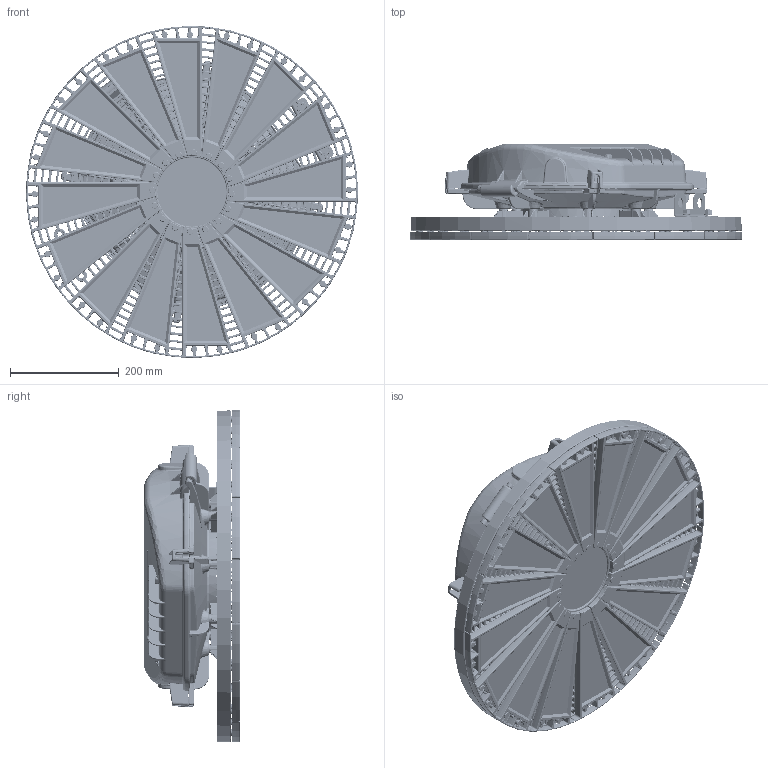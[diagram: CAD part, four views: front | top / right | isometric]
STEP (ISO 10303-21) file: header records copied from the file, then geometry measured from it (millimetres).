
FILE_DESCRIPTION((''),'2;1');
FILE_NAME('H7XXXXXXXNXXXX','2020-08-19T11:58:06',('Wangc'),(''),'CREO PARAMETRIC BY PTC INC, 2019080','CREO PARAMETRIC BY PTC INC, 2019080','');
FILE_SCHEMA(('CONFIG_CONTROL_DESIGN'));
Length unit declared in the file: inch
Products named in the file (1): H7XXXXXXXNXXXX
Bounding box: 609.28 x 176.78 x 609.3 mm (x, y, z)
Surface area: 1871117.6 mm2 (no closed solid volume)
Topology: 0 solids, 95 shells, 14696 faces, 43880 edges, 27343 vertices
Faces by surface type: cylinder 4233, bspline 3971, plane 2444, torus 2200, cone 1742, sphere 103, extrusion 2, revolution 1
Entity records: 799639 total; most frequent: CARTESIAN_POINT 458796, ORIENTED_EDGE 71266, DIRECTION 61167, EDGE_CURVE 43820, VERTEX_POINT 27345, AXIS2_PLACEMENT_3D 24534, B_SPLINE_CURVE_WITH_KNOTS 17915, EDGE_LOOP 15296
